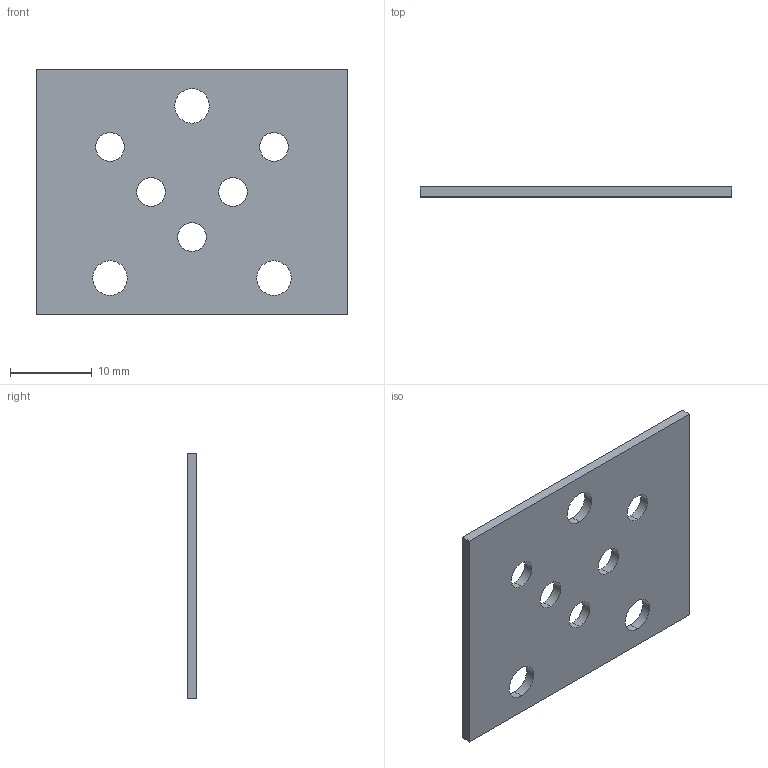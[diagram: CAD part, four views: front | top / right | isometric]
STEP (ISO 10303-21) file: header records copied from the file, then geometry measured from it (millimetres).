
FILE_DESCRIPTION (( 'STEP AP214' ), '1' );
FILE_NAME ('PZSA03.STEP', '2017-04-26T06:46:46', ( '' ), ( '' ), 'SwSTEP 2.0', 'SolidWorks 2016', '' );
FILE_SCHEMA (( 'AUTOMOTIVE_DESIGN' ));
Length unit declared in the file: millimetre
Products named in the file (1): PZSA03
Bounding box: 38 x 1.2 x 30 mm (x, y, z)
Volume: 1260.4 mm3; surface area: 2377.3 mm2
Topology: 1 solids, 1 shells, 22 faces, 60 edges, 40 vertices
Faces by surface type: cylinder 16, plane 6
Entity records: 782 total; most frequent: DIRECTION 138, CARTESIAN_POINT 123, ORIENTED_EDGE 120, EDGE_CURVE 60, AXIS2_PLACEMENT_3D 55, VERTEX_POINT 40, EDGE_LOOP 38, CIRCLE 32
